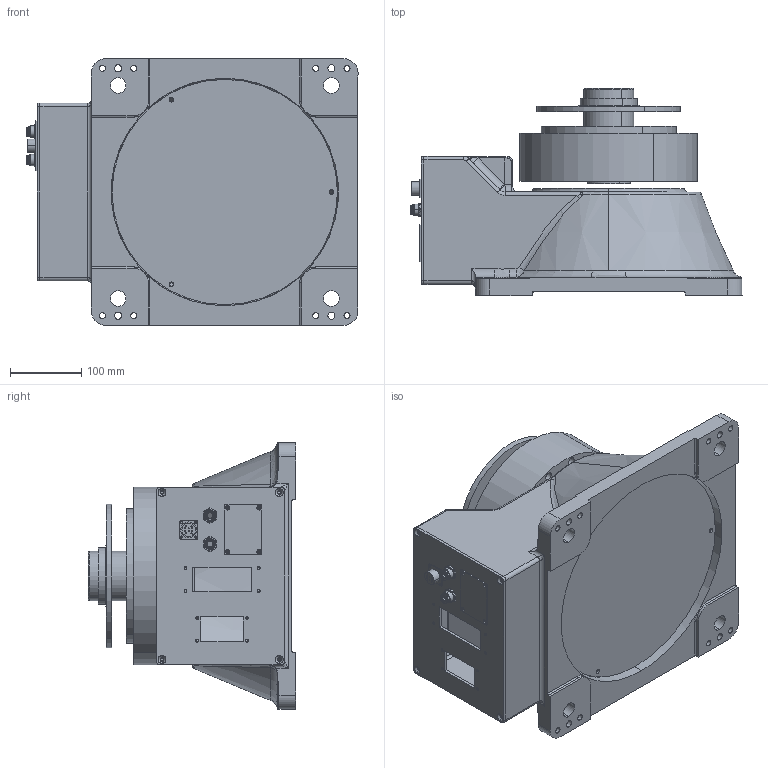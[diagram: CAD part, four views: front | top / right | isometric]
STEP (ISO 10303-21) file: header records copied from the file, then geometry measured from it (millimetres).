
FILE_DESCRIPTION (( 'STEP AP203' ), '1' );
FILE_NAME ('TKB3670-01.STEP', '2023-07-17T01:45:09', ( '1' ), ( '1' ), 'SwSTEP 2.0', 'SolidWorks 2018', '' );
FILE_SCHEMA (( 'CONFIG_CONTROL_DESIGN' ));
Length unit declared in the file: millimetre
Products named in the file (1): TKB3670-01
Bounding box: 467.1 x 291.4 x 375 mm (x, y, z)
Surface area: 927068.8 mm2 (no closed solid volume)
Topology: 0 solids, 17 shells, 486 faces, 1426 edges, 955 vertices
Faces by surface type: cylinder 246, plane 127, cone 63, bspline 25, torus 23, sphere 2
Entity records: 18437 total; most frequent: CARTESIAN_POINT 5075, DIRECTION 2924, ORIENTED_EDGE 2539, EDGE_CURVE 1418, AXIS2_PLACEMENT_3D 1149, VERTEX_POINT 955, CIRCLE 687, EDGE_LOOP 653
